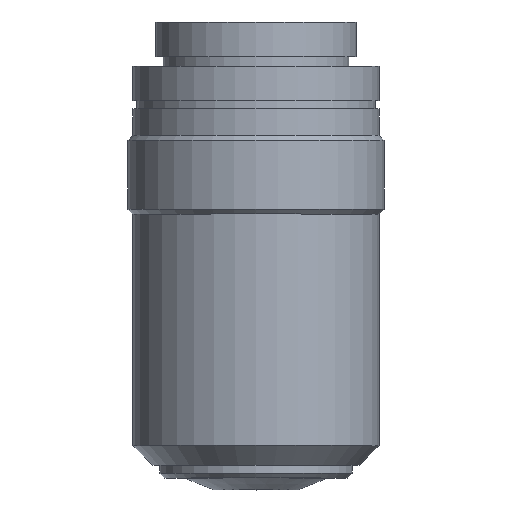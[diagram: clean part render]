
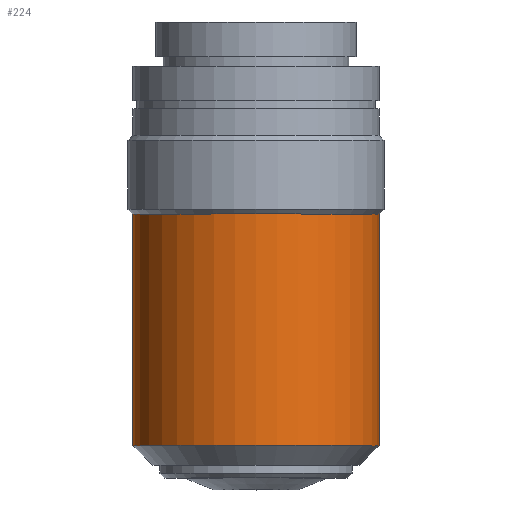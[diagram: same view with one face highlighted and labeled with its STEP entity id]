
A CAD part, top view. The second image highlights one B-rep face of the part: STEP entity #224.
In plain terms, the highlighted cylindrical face has radius 12.5 mm (diameter 25 mm), a full revolution.
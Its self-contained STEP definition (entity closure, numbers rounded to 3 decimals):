
#190=CARTESIAN_POINT('',(-12.5,-43.0,0.0));
#191=VERTEX_POINT('',#190);
#192=CARTESIAN_POINT('',(0.0,-43.0,0.0));
#193=DIRECTION('',(0.0,1.0,0.0));
#194=DIRECTION('',(-1.0,0.0,0.0));
#195=AXIS2_PLACEMENT_3D('',#192,#193,#194);
#196=CIRCLE('',#195,12.5);
#197=EDGE_CURVE('',#191,#191,#196,.T.);
#205=CARTESIAN_POINT('',(0.0,-31.25,0.0));
#206=DIRECTION('',(0.0,1.0,0.0));
#207=DIRECTION('',(-1.0,0.0,0.0));
#208=AXIS2_PLACEMENT_3D('',#205,#206,#207);
#209=CYLINDRICAL_SURFACE('',#208,12.5);
#210=CARTESIAN_POINT('',(-12.5,-19.5,0.0));
#211=VERTEX_POINT('',#210);
#212=CARTESIAN_POINT('',(0.0,-19.5,0.0));
#213=DIRECTION('',(0.0,1.0,0.0));
#214=DIRECTION('',(-1.0,0.0,0.0));
#215=AXIS2_PLACEMENT_3D('',#212,#213,#214);
#216=CIRCLE('',#215,12.5);
#217=EDGE_CURVE('',#211,#211,#216,.T.);
#218=ORIENTED_EDGE('',*,*,#217,.F.);
#219=EDGE_LOOP('',(#218));
#220=FACE_OUTER_BOUND('',#219,.T.);
#221=ORIENTED_EDGE('',*,*,#197,.T.);
#222=EDGE_LOOP('',(#221));
#223=FACE_BOUND('',#222,.T.);
#224=ADVANCED_FACE('',(#220,#223),#209,.T.);
